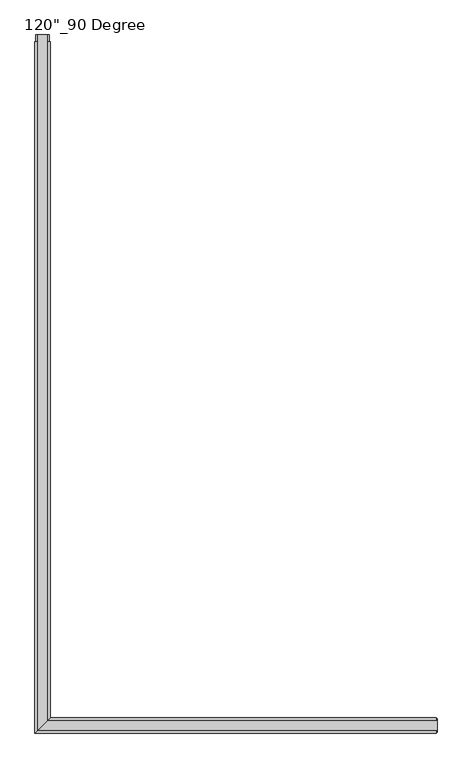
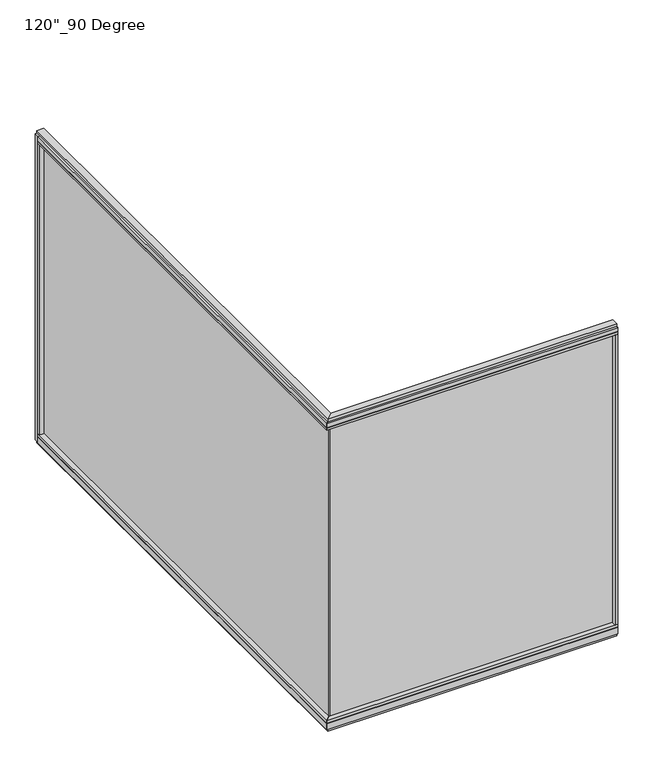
"""IFC4 building model written with IfcOpenShell, lengths in millimetres: furniture geometry."""

from ifc_helpers import new_model, si_unit, frame, origin, origin_with_axes, place, context, project, spatial, polyline, outline, extrude, faceted_brep, source, transform, mapped, element, save


def furniture_f4da7f2e(model_context):
    return source(origin(), model_context, "Body", "SolidModel", [
        extrude(outline(polyline([(-1360.5165229, 4549.1585596), (-1350.3565229, 4549.1585596), (-1350.3565229, -9.5977216), (-1360.5165229, -9.5977216), (-1360.5165229, 4549.1585596)])), frame((0.0, 0.0, 120.523), z_axis=(0.0, 0.0, 1.0), x_axis=(1.0, 0.0, 0.0)), (0.0, 0.0, 1.0), 2838.577),
        extrude(outline(polyline([(-1304.6365229, 4571.3835596), (-1304.6365229, 46.2822784), (-1406.2365229, -55.3177216), (-1406.2365229, 4571.3835596), (-1304.6365229, 4571.3835596)])), frame((0.0, 0.0, 2959.1), z_axis=(0.0, 0.0, 1.0), x_axis=(1.0, 0.0, 0.0)), (0.0, 0.0, 1.0), 22.225),
        faceted_brep([(-1304.6365229, 46.2822784, 2986.278), (-1304.6365229, 46.2822784, 3022.6), (-1406.2365229, -55.3177216, 3022.6), (-1406.2365229, -55.3177216, 2986.278), (-1401.2835229, -50.3647216, 2986.278), (-1401.2835229, -50.3647216, 2981.325), (-1309.5895229, 41.3292784, 2981.325), (-1309.5895229, 41.3292784, 2986.278), (-1304.6365229, 4571.3835596, 2986.278), (-1309.5895229, 4571.3835596, 2986.278), (-1309.5895229, 4571.3835596, 2981.325), (-1401.2835229, 4571.3835596, 2981.325), (-1401.2835229, 4571.3835596, 2986.278), (-1406.2365229, 4571.3835596, 2986.278), (-1406.2365229, 4571.3835596, 3022.6), (-1304.6365229, 4571.3835596, 3022.6)], [[[0, 1, 2, 3, 4, 5, 6, 7]], [[8, 9, 10, 11, 12, 13, 14, 15]], [[8, 0, 7, 9]], [[13, 3, 2, 14]], [[14, 2, 1, 15]], [[15, 1, 0, 8]], [[9, 7, 6, 10]], [[10, 6, 5, 11]], [[11, 5, 4, 12]], [[12, 4, 3, 13]]]),
        extrude(outline(polyline([(-1322.9245229, 4618.2465596), (-1322.9245229, 27.9942784), (-1387.9485229, -37.0297216), (-1387.9485229, 4618.2465596), (-1322.9245229, 4618.2465596)])), frame((0.0, 0.0, 3022.6), z_axis=(0.0, 0.0, 1.0), x_axis=(1.0, 0.0, 0.0)), (0.0, 0.0, 1.0), 25.4),
        faceted_brep([(-1309.5895229, 41.3292784, 93.345), (-1309.5895229, 41.3292784, 98.298), (-1401.2835229, -50.3647216, 98.298), (-1401.2835229, -50.3647216, 93.345), (-1406.2365229, -55.3177216, 93.345), (-1406.2365229, -55.3177216, 31.75), (-1304.6365229, 46.2822784, 31.75), (-1304.6365229, 46.2822784, 93.345), (-1304.6365229, 4571.3835596, 93.345), (-1304.6365229, 4571.3835596, 31.75), (-1406.2365229, 4571.3835596, 31.75), (-1406.2365229, 4571.3835596, 93.345), (-1401.2835229, 4571.3835596, 93.345), (-1401.2835229, 4571.3835596, 98.298), (-1309.5895229, 4571.3835596, 98.298), (-1309.5895229, 4571.3835596, 93.345)], [[[0, 1, 2, 3, 4, 5, 6, 7]], [[8, 9, 10, 11, 12, 13, 14, 15]], [[15, 0, 7, 8]], [[10, 5, 4, 11]], [[9, 6, 5, 10]], [[8, 7, 6, 9]], [[14, 1, 0, 15]], [[13, 2, 1, 14]], [[12, 3, 2, 13]], [[11, 4, 3, 12]]]),
        extrude(outline(polyline([(-1304.6365229, 4571.3835596), (-1304.6365229, 46.2822784), (-1406.2365229, -55.3177216), (-1406.2365229, 4571.3835596), (-1304.6365229, 4571.3835596)])), frame((0.0, 0.0, 98.298), z_axis=(0.0, 0.0, 1.0), x_axis=(1.0, 0.0, 0.0)), (0.0, 0.0, 1.0), 22.225),
        extrude(outline(polyline([(-1322.9245229, 4618.2465596), (-1322.9245229, 27.9942784), (-1387.9485229, -37.0297216), (-1387.9485229, 4618.2465596), (-1322.9245229, 4618.2465596)])), origin_with_axes(), (0.0, 0.0, 1.0), 31.75),
        extrude(outline(polyline([(-1406.2365229, 4549.1585596), (-1406.2365229, 4571.3835596), (-1304.6365229, 4571.3835596), (-1304.6365229, 4549.1585596), (-1406.2365229, 4549.1585596)])), frame((0.0, 0.0, 120.523), z_axis=(0.0, 0.0, 1.0), x_axis=(1.0, 0.0, 0.0)), (0.0, 0.0, 1.0), 2838.577),
        extrude(outline(polyline([(-1401.2835229, 4618.2465596), (-1309.5895229, 4618.2465596), (-1309.5895229, 4571.3835596), (-1401.2835229, 4571.3835596), (-1401.2835229, 4618.2465596)])), frame((0.0, 0.0, 31.75), z_axis=(0.0, 0.0, 1.0), x_axis=(1.0, 0.0, 0.0)), (0.0, 0.0, 1.0), 2990.85),
        extrude(outline(polyline([(1260.0014771, -9.5977216), (-1360.5165229, -9.5977216), (-1360.5165229, 0.5622784), (1260.0014771, 0.5622784), (1260.0014771, -9.5977216)])), frame((0.0, 0.0, 120.523), z_axis=(0.0, 0.0, 1.0), x_axis=(1.0, 0.0, 0.0)), (0.0, 0.0, 1.0), 2838.577),
        extrude(outline(polyline([(1282.2264771, 46.2822784), (1282.2264771, -55.3177216), (-1406.2365229, -55.3177216), (-1304.6365229, 46.2822784), (1282.2264771, 46.2822784)])), frame((0.0, 0.0, 2959.1), z_axis=(0.0, 0.0, 1.0), x_axis=(1.0, 0.0, 0.0)), (0.0, 0.0, 1.0), 22.225),
        faceted_brep([(-1304.6365229, 46.2822784, 2986.278), (-1309.5895229, 41.3292784, 2986.278), (-1309.5895229, 41.3292784, 2981.325), (-1401.2835229, -50.3647216, 2981.325), (-1401.2835229, -50.3647216, 2986.278), (-1406.2365229, -55.3177216, 2986.278), (-1406.2365229, -55.3177216, 3022.6), (-1304.6365229, 46.2822784, 3022.6), (1282.2264771, 46.2822784, 2986.278), (1282.2264771, 46.2822784, 3022.6), (1282.2264771, -55.3177216, 3022.6), (1282.2264771, -55.3177216, 2986.278), (1282.2264771, -50.3647216, 2986.278), (1282.2264771, -50.3647216, 2981.325), (1282.2264771, 41.3292784, 2981.325), (1282.2264771, 41.3292784, 2986.278)], [[[0, 1, 2, 3, 4, 5, 6, 7]], [[8, 9, 10, 11, 12, 13, 14, 15]], [[8, 15, 1, 0]], [[11, 10, 6, 5]], [[10, 9, 7, 6]], [[9, 8, 0, 7]], [[15, 14, 2, 1]], [[14, 13, 3, 2]], [[13, 12, 4, 3]], [[12, 11, 5, 4]]]),
        extrude(outline(polyline([(1286.1634771, 27.9942784), (1286.1634771, -37.0297216), (-1387.9485229, -37.0297216), (-1322.9245229, 27.9942784), (1286.1634771, 27.9942784)])), frame((0.0, 0.0, 3022.6), z_axis=(0.0, 0.0, 1.0), x_axis=(1.0, 0.0, 0.0)), (0.0, 0.0, 1.0), 25.4),
        faceted_brep([(-1309.5895229, 41.3292784, 93.345), (-1304.6365229, 46.2822784, 93.345), (-1304.6365229, 46.2822784, 31.75), (-1406.2365229, -55.3177216, 31.75), (-1406.2365229, -55.3177216, 93.345), (-1401.2835229, -50.3647216, 93.345), (-1401.2835229, -50.3647216, 98.298), (-1309.5895229, 41.3292784, 98.298), (1282.2264771, 46.2822784, 93.345), (1282.2264771, 41.3292784, 93.345), (1282.2264771, 41.3292784, 98.298), (1282.2264771, -50.3647216, 98.298), (1282.2264771, -50.3647216, 93.345), (1282.2264771, -55.3177216, 93.345), (1282.2264771, -55.3177216, 31.75), (1282.2264771, 46.2822784, 31.75)], [[[0, 1, 2, 3, 4, 5, 6, 7]], [[8, 9, 10, 11, 12, 13, 14, 15]], [[9, 8, 1, 0]], [[14, 13, 4, 3]], [[15, 14, 3, 2]], [[8, 15, 2, 1]], [[10, 9, 0, 7]], [[11, 10, 7, 6]], [[12, 11, 6, 5]], [[13, 12, 5, 4]]]),
        extrude(outline(polyline([(1282.2264771, 46.2822784), (1282.2264771, -55.3177216), (-1406.2365229, -55.3177216), (-1304.6365229, 46.2822784), (1282.2264771, 46.2822784)])), frame((0.0, 0.0, 98.298), z_axis=(0.0, 0.0, 1.0), x_axis=(1.0, 0.0, 0.0)), (0.0, 0.0, 1.0), 22.225),
        extrude(outline(polyline([(1286.1634771, 27.9942784), (1286.1634771, -37.0297216), (-1387.9485229, -37.0297216), (-1322.9245229, 27.9942784), (1286.1634771, 27.9942784)])), origin_with_axes(), (0.0, 0.0, 1.0), 31.75),
        extrude(outline(polyline([(1260.0014771, -55.3177216), (1260.0014771, 46.2822784), (1282.2264771, 46.2822784), (1282.2264771, -55.3177216), (1260.0014771, -55.3177216)])), frame((0.0, 0.0, 120.523), z_axis=(0.0, 0.0, 1.0), x_axis=(1.0, 0.0, 0.0)), (0.0, 0.0, 1.0), 2838.577),
        extrude(outline(polyline([(1286.1634771, -50.3647216), (1282.2264771, -50.3647216), (1282.2264771, 41.3292784), (1286.1634771, 41.3292784), (1286.1634771, -50.3647216)])), frame((0.0, 0.0, 31.75), z_axis=(0.0, 0.0, 1.0), x_axis=(1.0, 0.0, 0.0)), (0.0, 0.0, 1.0), 2990.85),
    ])


if __name__ == "__main__":
    model = new_model("IFC4")
    model_context = context("Model", 3, world=origin())
    ifc_project = project(units=[si_unit("LENGTHUNIT", "METRE", prefix="MILLI")], contexts=[model_context])
    site = spatial("IfcSite", under=ifc_project)
    building = spatial("IfcBuilding", under=site)
    placement = place(None, origin())
    furniture_shape = furniture_f4da7f2e(model_context)
    element("IfcFurniture", 1, ObjectType="Haworth_Enclose_Wall_GlassCorner : 120\"_90 Degree", at=placement, inside=building, context=model_context, shape_type="MappedRepresentation", body=[
        mapped(furniture_shape, transform((0.0, 0.0, 0.0), x_axis=(1.0, 0.0, 0.0), y_axis=(0.0, 1.0, 0.0), z_axis=(0.0, 0.0, 1.0))),
    ])
    save(model, "model.ifc")
